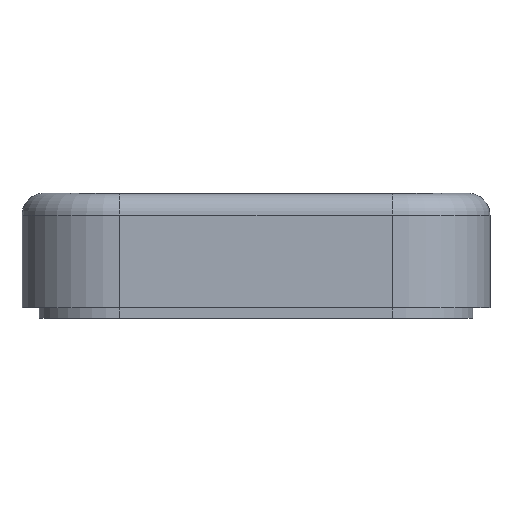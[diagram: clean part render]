
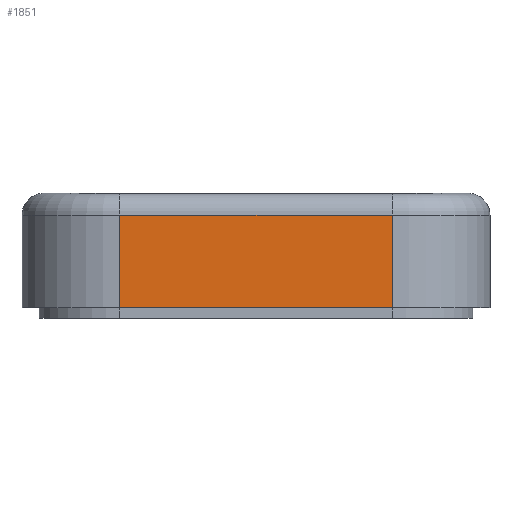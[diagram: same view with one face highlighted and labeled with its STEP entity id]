
A CAD part, front view. The second image highlights one B-rep face of the part: STEP entity #1851.
In plain terms, the highlighted planar face has unit normal (0, -1, 0).
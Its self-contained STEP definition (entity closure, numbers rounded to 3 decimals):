
#44 = CYLINDRICAL_SURFACE('',#45,18.);
#45 = AXIS2_PLACEMENT_3D('',#46,#47,#48);
#46 = CARTESIAN_POINT('',(-25.,-49.,-12.5));
#47 = DIRECTION('',(0.,0.,1.));
#48 = DIRECTION('',(-1.,-0.,0.));
#72 = PLANE('',#73);
#73 = AXIS2_PLACEMENT_3D('',#74,#75,#76);
#74 = CARTESIAN_POINT('',(-100.,-110.,-8.5));
#75 = DIRECTION('',(0.,0.,1.));
#76 = DIRECTION('',(1.,0.,0.));
#365 = VERTEX_POINT('',#366);
#366 = CARTESIAN_POINT('',(-25.,-67.,-8.5));
#392 = EDGE_CURVE('',#365,#393,#395,.T.);
#393 = VERTEX_POINT('',#394);
#394 = CARTESIAN_POINT('',(-25.,-67.,8.5));
#395 = SURFACE_CURVE('',#396,(#400,#407),.PCURVE_S1.);
#396 = LINE('',#397,#398);
#397 = CARTESIAN_POINT('',(-25.,-67.,-12.5));
#398 = VECTOR('',#399,1.);
#399 = DIRECTION('',(0.,0.,1.));
#400 = PCURVE('',#44,#401);
#401 = DEFINITIONAL_REPRESENTATION('',(#402),#406);
#402 = LINE('',#403,#404);
#403 = CARTESIAN_POINT('',(1.571,0.));
#404 = VECTOR('',#405,1.);
#405 = DIRECTION('',(0.,1.));
#406 = ( GEOMETRIC_REPRESENTATION_CONTEXT(2) 
PARAMETRIC_REPRESENTATION_CONTEXT() REPRESENTATION_CONTEXT('2D SPACE',''
  ) );
#407 = PCURVE('',#408,#413);
#408 = PLANE('',#409);
#409 = AXIS2_PLACEMENT_3D('',#410,#411,#412);
#410 = CARTESIAN_POINT('',(-43.,-67.,-12.5));
#411 = DIRECTION('',(0.,1.,0.));
#412 = DIRECTION('',(0.,0.,1.));
#413 = DEFINITIONAL_REPRESENTATION('',(#414),#418);
#414 = LINE('',#415,#416);
#415 = CARTESIAN_POINT('',(0.,18.));
#416 = VECTOR('',#417,1.);
#417 = DIRECTION('',(1.,0.));
#418 = ( GEOMETRIC_REPRESENTATION_CONTEXT(2) 
PARAMETRIC_REPRESENTATION_CONTEXT() REPRESENTATION_CONTEXT('2D SPACE',''
  ) );
#452 = EDGE_CURVE('',#453,#365,#455,.T.);
#453 = VERTEX_POINT('',#454);
#454 = CARTESIAN_POINT('',(25.,-67.,-8.5));
#455 = SURFACE_CURVE('',#456,(#460,#467),.PCURVE_S1.);
#456 = LINE('',#457,#458);
#457 = CARTESIAN_POINT('',(25.,-67.,-8.5));
#458 = VECTOR('',#459,1.);
#459 = DIRECTION('',(-1.,-0.,-0.));
#460 = PCURVE('',#72,#461);
#461 = DEFINITIONAL_REPRESENTATION('',(#462),#466);
#462 = LINE('',#463,#464);
#463 = CARTESIAN_POINT('',(125.,43.));
#464 = VECTOR('',#465,1.);
#465 = DIRECTION('',(-1.,0.));
#466 = ( GEOMETRIC_REPRESENTATION_CONTEXT(2) 
PARAMETRIC_REPRESENTATION_CONTEXT() REPRESENTATION_CONTEXT('2D SPACE',''
  ) );
#467 = PCURVE('',#408,#468);
#468 = DEFINITIONAL_REPRESENTATION('',(#469),#473);
#469 = LINE('',#470,#471);
#470 = CARTESIAN_POINT('',(4.,68.));
#471 = VECTOR('',#472,1.);
#472 = DIRECTION('',(-0.,-1.));
#473 = ( GEOMETRIC_REPRESENTATION_CONTEXT(2) 
PARAMETRIC_REPRESENTATION_CONTEXT() REPRESENTATION_CONTEXT('2D SPACE',''
  ) );
#496 = CYLINDRICAL_SURFACE('',#497,18.);
#497 = AXIS2_PLACEMENT_3D('',#498,#499,#500);
#498 = CARTESIAN_POINT('',(25.,-49.,-12.5));
#499 = DIRECTION('',(0.,0.,1.));
#500 = DIRECTION('',(1.,0.,-0.));
#1813 = CYLINDRICAL_SURFACE('',#1814,4.);
#1814 = AXIS2_PLACEMENT_3D('',#1815,#1816,#1817);
#1815 = CARTESIAN_POINT('',(25.,-63.,8.5));
#1816 = DIRECTION('',(-1.,-0.,-0.));
#1817 = DIRECTION('',(0.,-1.,0.));
#1851 = ADVANCED_FACE('',(#1852),#408,.F.);
#1852 = FACE_BOUND('',#1853,.F.);
#1853 = EDGE_LOOP('',(#1854,#1855,#1878,#1899));
#1854 = ORIENTED_EDGE('',*,*,#392,.T.);
#1855 = ORIENTED_EDGE('',*,*,#1856,.F.);
#1856 = EDGE_CURVE('',#1857,#393,#1859,.T.);
#1857 = VERTEX_POINT('',#1858);
#1858 = CARTESIAN_POINT('',(25.,-67.,8.5));
#1859 = SURFACE_CURVE('',#1860,(#1864,#1871),.PCURVE_S1.);
#1860 = LINE('',#1861,#1862);
#1861 = CARTESIAN_POINT('',(25.,-67.,8.5));
#1862 = VECTOR('',#1863,1.);
#1863 = DIRECTION('',(-1.,-0.,-0.));
#1864 = PCURVE('',#408,#1865);
#1865 = DEFINITIONAL_REPRESENTATION('',(#1866),#1870);
#1866 = LINE('',#1867,#1868);
#1867 = CARTESIAN_POINT('',(21.,68.));
#1868 = VECTOR('',#1869,1.);
#1869 = DIRECTION('',(-0.,-1.));
#1870 = ( GEOMETRIC_REPRESENTATION_CONTEXT(2) 
PARAMETRIC_REPRESENTATION_CONTEXT() REPRESENTATION_CONTEXT('2D SPACE',''
  ) );
#1871 = PCURVE('',#1813,#1872);
#1872 = DEFINITIONAL_REPRESENTATION('',(#1873),#1877);
#1873 = LINE('',#1874,#1875);
#1874 = CARTESIAN_POINT('',(0.,0.));
#1875 = VECTOR('',#1876,1.);
#1876 = DIRECTION('',(0.,1.));
#1877 = ( GEOMETRIC_REPRESENTATION_CONTEXT(2) 
PARAMETRIC_REPRESENTATION_CONTEXT() REPRESENTATION_CONTEXT('2D SPACE',''
  ) );
#1878 = ORIENTED_EDGE('',*,*,#1879,.F.);
#1879 = EDGE_CURVE('',#453,#1857,#1880,.T.);
#1880 = SURFACE_CURVE('',#1881,(#1885,#1892),.PCURVE_S1.);
#1881 = LINE('',#1882,#1883);
#1882 = CARTESIAN_POINT('',(25.,-67.,-12.5));
#1883 = VECTOR('',#1884,1.);
#1884 = DIRECTION('',(0.,0.,1.));
#1885 = PCURVE('',#408,#1886);
#1886 = DEFINITIONAL_REPRESENTATION('',(#1887),#1891);
#1887 = LINE('',#1888,#1889);
#1888 = CARTESIAN_POINT('',(0.,68.));
#1889 = VECTOR('',#1890,1.);
#1890 = DIRECTION('',(1.,0.));
#1891 = ( GEOMETRIC_REPRESENTATION_CONTEXT(2) 
PARAMETRIC_REPRESENTATION_CONTEXT() REPRESENTATION_CONTEXT('2D SPACE',''
  ) );
#1892 = PCURVE('',#496,#1893);
#1893 = DEFINITIONAL_REPRESENTATION('',(#1894),#1898);
#1894 = LINE('',#1895,#1896);
#1895 = CARTESIAN_POINT('',(-1.571,0.));
#1896 = VECTOR('',#1897,1.);
#1897 = DIRECTION('',(-0.,1.));
#1898 = ( GEOMETRIC_REPRESENTATION_CONTEXT(2) 
PARAMETRIC_REPRESENTATION_CONTEXT() REPRESENTATION_CONTEXT('2D SPACE',''
  ) );
#1899 = ORIENTED_EDGE('',*,*,#452,.T.);
